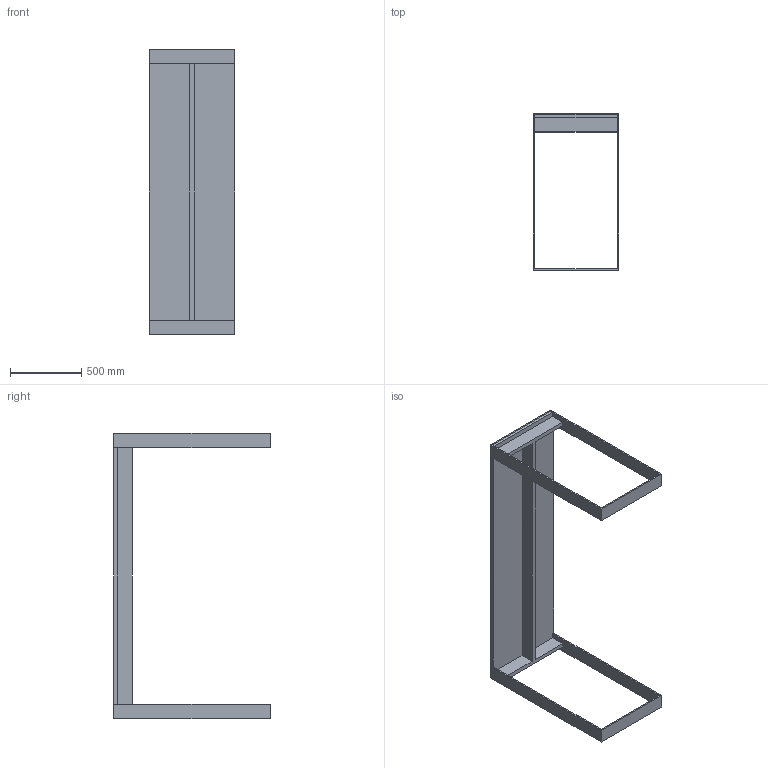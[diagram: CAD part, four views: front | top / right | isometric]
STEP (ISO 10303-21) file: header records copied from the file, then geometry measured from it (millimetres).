
FILE_DESCRIPTION (( 'STEP AP203' ), '1' );
FILE_NAME ('Haag 2000x600x1100.STEP', '2019-04-02T18:05:26', ( '' ), ( '' ), 'SwSTEP 2.0', 'SolidWorks 2019', '' );
FILE_SCHEMA (( 'CONFIG_CONTROL_DESIGN' ));
Length unit declared in the file: millimetre
Products named in the file (1): Haag 2000x600x1100
Bounding box: 600 x 1100 x 2000 mm (x, y, z)
Volume: 50530000 mm3; surface area: 4816200 mm2
Topology: 4 solids, 4 shells, 48 faces, 120 edges, 80 vertices
Faces by surface type: plane 48
Entity records: 1483 total; most frequent: CARTESIAN_POINT 249, ORIENTED_EDGE 240, DIRECTION 218, EDGE_CURVE 120, VECTOR 120, LINE 120, VERTEX_POINT 80, EDGE_LOOP 52
